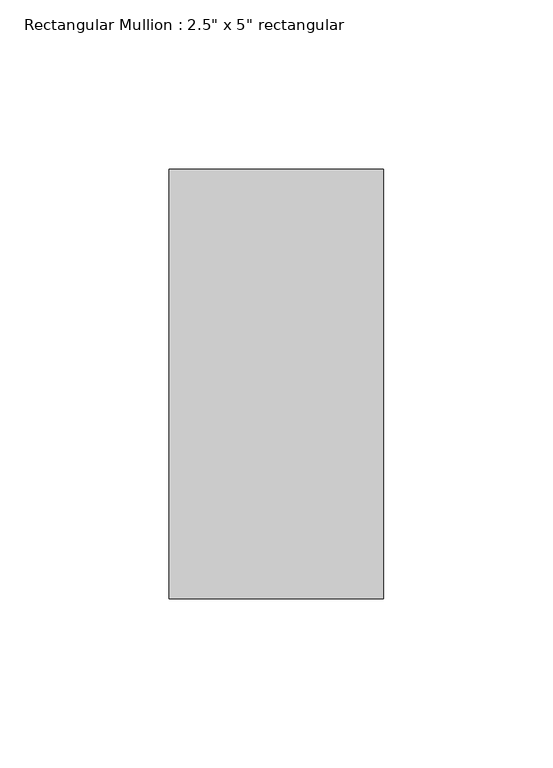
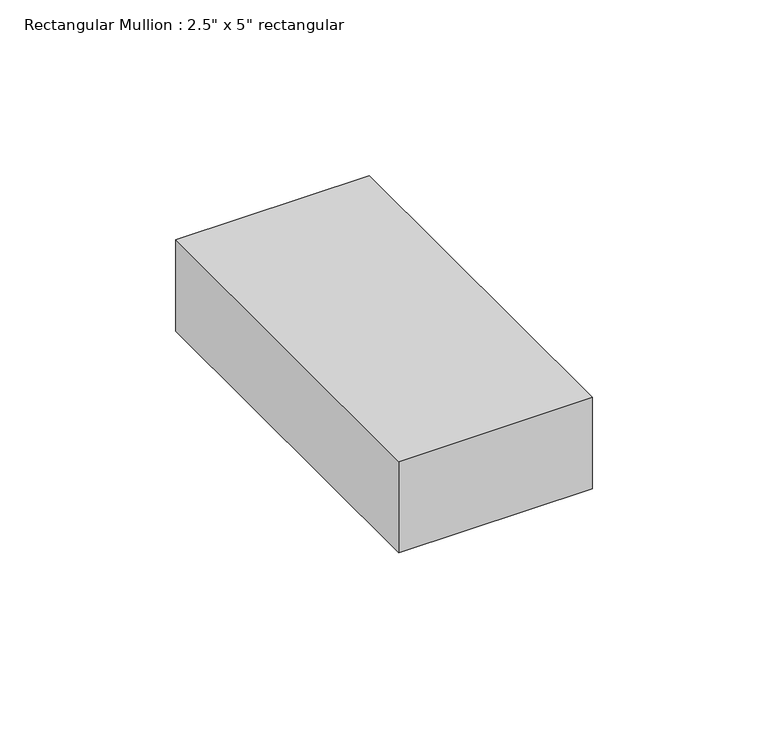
"""IFC4 building model written with IfcOpenShell, lengths in millimetres: member geometry."""

from ifc_helpers import new_model, si_unit, frame, origin, place, context, project, spatial, polyline, outline, extrude, source, transform, mapped, element, save


def member_051d43dc(model_context):
    return source(origin(), model_context, "Body", "SweptSolid", [
        extrude(outline(polyline([(31.75, 63.5), (31.75, -63.5), (-31.75, -63.5), (-31.75, 63.5), (31.75, 63.5)])), frame((0.0, 0.0, -31.75), z_axis=(0.0, 0.0, 1.0), x_axis=(1.0, 0.0, 0.0)), (0.0, 0.0, 1.0), 31.75),
    ])


if __name__ == "__main__":
    model = new_model("IFC4")
    model_context = context("Model", 3, world=origin())
    ifc_project = project(units=[si_unit("LENGTHUNIT", "METRE", prefix="MILLI")], contexts=[model_context])
    site = spatial("IfcSite", under=ifc_project)
    building = spatial("IfcBuilding", under=site)
    placement = place(None, origin())
    member_shape = member_051d43dc(model_context)
    element("IfcMember", 1, ObjectType="Rectangular Mullion : 2.5\" x 5\" rectangular", at=placement, inside=building, context=model_context, shape_type="MappedRepresentation", body=[
        mapped(member_shape, transform((0.0, 0.0, 0.0), x_axis=(1.0, 0.0, 0.0), y_axis=(0.0, 1.0, 0.0), z_axis=(0.0, 0.0, 1.0))),
    ])
    save(model, "model.ifc")
